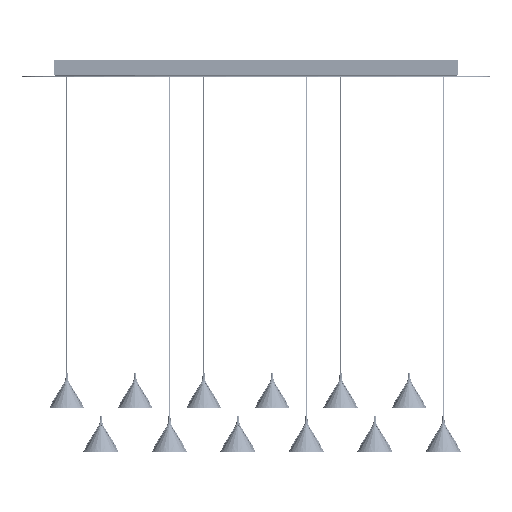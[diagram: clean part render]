
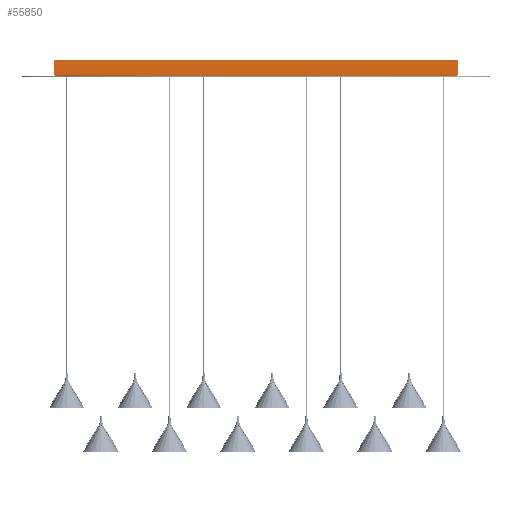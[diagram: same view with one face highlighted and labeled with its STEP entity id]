
A CAD part, top view. The second image highlights one B-rep face of the part: STEP entity #55850.
In plain terms, the highlighted planar face has unit normal (0, 0, 1).
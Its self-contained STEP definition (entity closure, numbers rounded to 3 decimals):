
#725 = EDGE_LOOP ( 'NONE', ( #14423, #31290, #50963, #55876 ) ) ;
#850 = CARTESIAN_POINT ( 'NONE',  ( 0., 0., 60. ) ) ;
#1189 = LINE ( 'NONE', #39450, #9240 ) ;
#1546 = DIRECTION ( 'NONE',  ( 0., -1., 0. ) ) ;
#1855 = CARTESIAN_POINT ( 'NONE',  ( -515., 0., 60. ) ) ;
#4034 = EDGE_CURVE ( 'NONE', #56669, #29328, #39571, .T. ) ;
#6264 = EDGE_CURVE ( 'NONE', #58510, #56669, #1189, .T. ) ;
#7663 = VERTEX_POINT ( 'NONE', #31207 ) ;
#9240 = VECTOR ( 'NONE', #54835, 1000. ) ;
#9614 = VECTOR ( 'NONE', #55287, 1000. ) ;
#10640 = CARTESIAN_POINT ( 'NONE',  ( 0., 40., 60. ) ) ;
#14423 = ORIENTED_EDGE ( 'NONE', *, *, #55477, .T. ) ;
#15633 = DIRECTION ( 'NONE',  ( 1., 0., 0. ) ) ;
#15739 = VECTOR ( 'NONE', #28596, 1000. ) ;
#16193 = VECTOR ( 'NONE', #1546, 1000. ) ;
#18614 = CARTESIAN_POINT ( 'NONE',  ( 0., 2.5, 60. ) ) ;
#25299 = FACE_OUTER_BOUND ( 'NONE', #725, .T. ) ;
#28596 = DIRECTION ( 'NONE',  ( 1., 0., 0. ) ) ;
#29328 = VERTEX_POINT ( 'NONE', #63325 ) ;
#31207 = CARTESIAN_POINT ( 'NONE',  ( -515., 2.5, 60. ) ) ;
#31290 = ORIENTED_EDGE ( 'NONE', *, *, #43114, .T. ) ;
#35621 = CARTESIAN_POINT ( 'NONE',  ( 515., 40., 60. ) ) ;
#39450 = CARTESIAN_POINT ( 'NONE',  ( 515., 0., 60. ) ) ;
#39571 = LINE ( 'NONE', #10640, #9614 ) ;
#43114 = EDGE_CURVE ( 'NONE', #7663, #58510, #52990, .T. ) ;
#44856 = PLANE ( 'NONE',  #59168 ) ;
#46178 = LINE ( 'NONE', #1855, #16193 ) ;
#50963 = ORIENTED_EDGE ( 'NONE', *, *, #6264, .T. ) ;
#52990 = LINE ( 'NONE', #18614, #15739 ) ;
#54835 = DIRECTION ( 'NONE',  ( 0., 1., 0. ) ) ;
#55287 = DIRECTION ( 'NONE',  ( -1., 0., 0. ) ) ;
#55477 = EDGE_CURVE ( 'NONE', #29328, #7663, #46178, .T. ) ;
#55850 = ADVANCED_FACE ( 'NONE', ( #25299 ), #44856, .T. ) ;
#55876 = ORIENTED_EDGE ( 'NONE', *, *, #4034, .T. ) ;
#56669 = VERTEX_POINT ( 'NONE', #35621 ) ;
#57090 = CARTESIAN_POINT ( 'NONE',  ( 515., 2.5, 60. ) ) ;
#58510 = VERTEX_POINT ( 'NONE', #57090 ) ;
#59168 = AXIS2_PLACEMENT_3D ( 'NONE', #850, #59646, #15633 ) ;
#59646 = DIRECTION ( 'NONE',  ( 0., 0., 1. ) ) ;
#63325 = CARTESIAN_POINT ( 'NONE',  ( -515., 40., 60. ) ) ;
